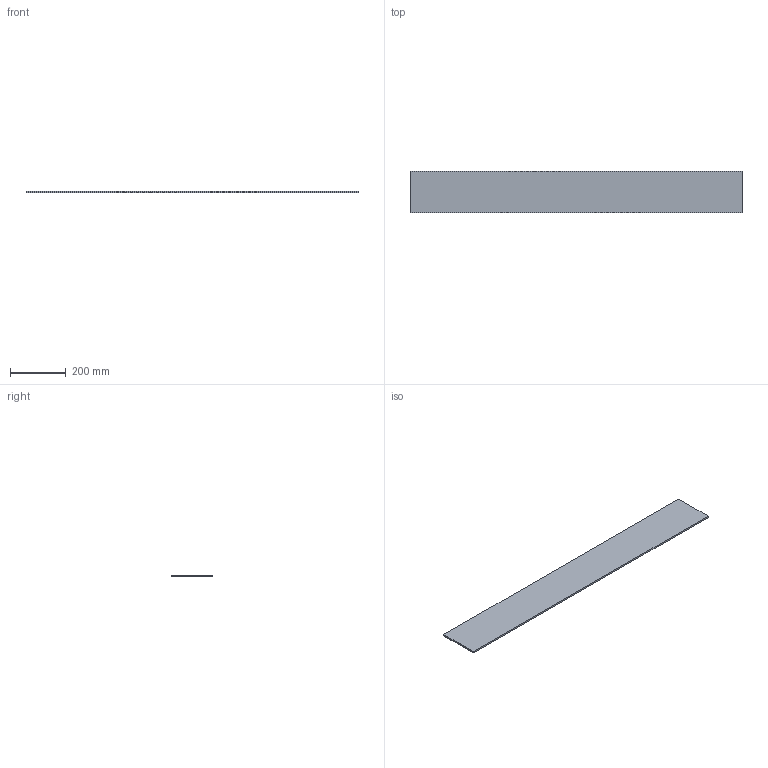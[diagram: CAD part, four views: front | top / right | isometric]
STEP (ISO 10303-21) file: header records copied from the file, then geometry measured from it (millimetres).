
FILE_DESCRIPTION(('Open CASCADE Model'),'2;1');
FILE_NAME('Open CASCADE Shape Model','2026-10-19T10:09:27',('Author'),( 'Open CASCADE'),'Open CASCADE STEP processor 8.0','Open CASCADE 8.0' ,'Unknown');
FILE_SCHEMA(('AUTOMOTIVE_DESIGN { 1 0 10303 214 1 1 1 1 }'));
Length unit declared in the file: millimetre
Products named in the file (1): AC_RODAPIE_1190x150x6 182
Bounding box: 1190 x 150 x 6 mm (x, y, z)
Volume: 1071000 mm3; surface area: 373080 mm2
Topology: 1 solids, 1 shells, 6 faces, 12 edges, 8 vertices
Faces by surface type: plane 6
Entity records: 322 total; most frequent: CARTESIAN_POINT 51, DIRECTION 50, LINE 36, VECTOR 36, ORIENTED_EDGE 24, PCURVE 24, DEFINITIONAL_REPRESENTATION 24, EDGE_CURVE 12
